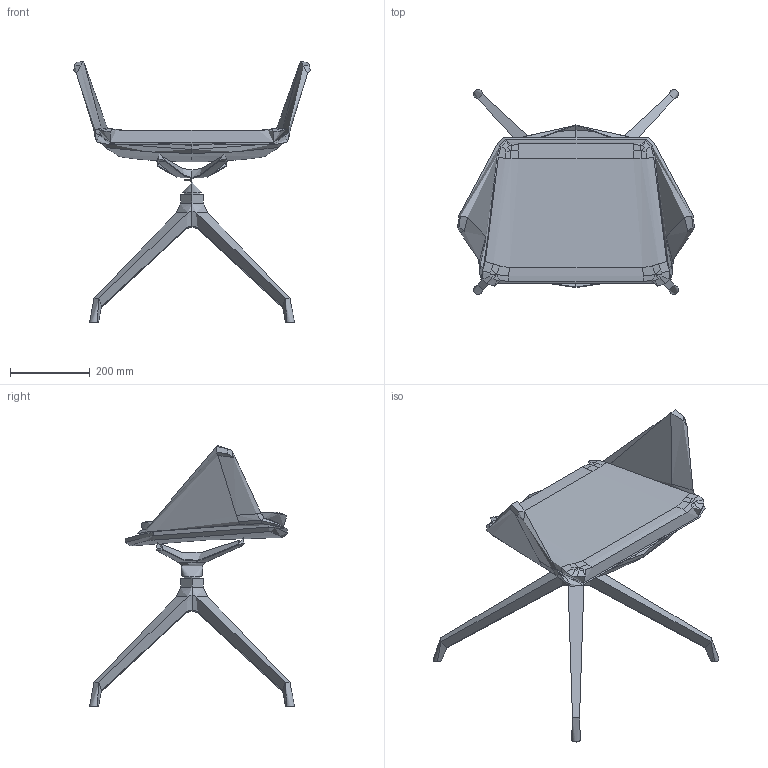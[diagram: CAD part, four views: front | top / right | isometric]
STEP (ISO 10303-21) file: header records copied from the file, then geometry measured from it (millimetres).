
FILE_DESCRIPTION(/* description */ (''),/* implementation_level */ '2;1');
FILE_NAME(/* name */ 'Wave 033-F70',/* time_stamp */ '2023-01-31T10:52:19+01:00',/* author */ (''),/* organization */ (''),/* preprocessor_version */ 'ST-DEVELOPER v16.5',/* originating_system */ 'Rhino 7.26',/* authorisation */ '');
FILE_SCHEMA (('CONFIG_CONTROL_DESIGN'));
Length unit declared in the file: millimetre
Products named in the file (1): Document
Bounding box: 592.64 x 512.72 x 652.82 mm (x, y, z)
Volume: 10082528 mm3; surface area: 1609247 mm2
Topology: 1 solids, 5 shells, 213 faces, 548 edges, 332 vertices
Faces by surface type: bspline 173, plane 22, cylinder 18
Entity records: 28163 total; most frequent: CARTESIAN_POINT 24846, ORIENTED_EDGE 1040, EDGE_CURVE 538, B_SPLINE_CURVE_WITH_KNOTS 412, VERTEX_POINT 328, ADVANCED_FACE 213, FACE_OUTER_BOUND 213, EDGE_LOOP 213
